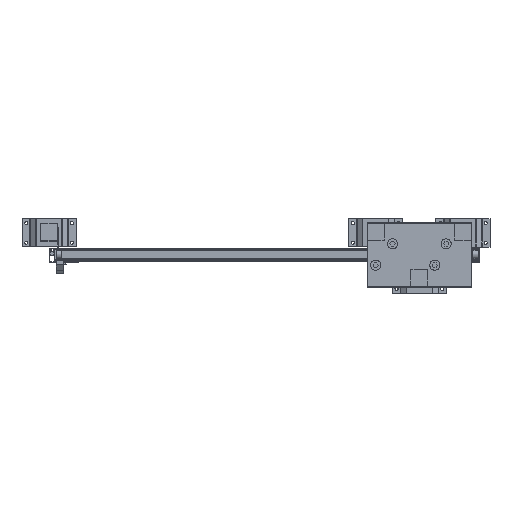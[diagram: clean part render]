
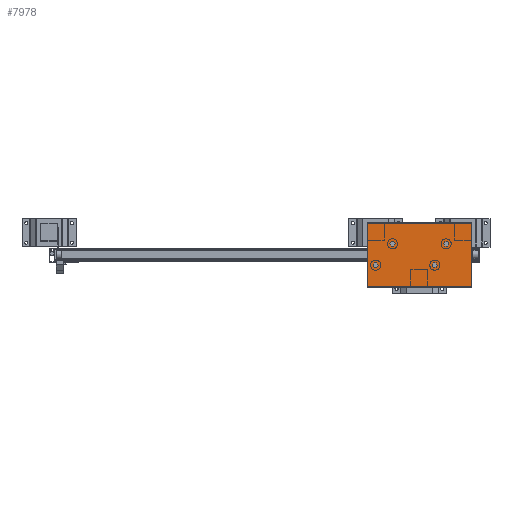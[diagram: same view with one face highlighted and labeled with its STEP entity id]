
A CAD part, top view. The second image highlights one B-rep face of the part: STEP entity #7978.
In plain terms, the highlighted planar face has unit normal (0, 0, 1).
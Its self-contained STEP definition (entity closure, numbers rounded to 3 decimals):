
#1031=FACE_OUTER_BOUND('',#1446,.T.);
#1446=EDGE_LOOP('',(#6315,#6316,#6317,#6318));
#2204=LINE('',#12313,#3223);
#2205=LINE('',#12315,#3224);
#2206=LINE('',#12317,#3225);
#2207=LINE('',#12318,#3226);
#3223=VECTOR('',#9797,1.);
#3224=VECTOR('',#9798,1.);
#3225=VECTOR('',#9799,1.);
#3226=VECTOR('',#9800,1.);
#4015=VERTEX_POINT('',#12311);
#4016=VERTEX_POINT('',#12312);
#4017=VERTEX_POINT('',#12314);
#4018=VERTEX_POINT('',#12316);
#4874=EDGE_CURVE('',#4015,#4016,#2204,.T.);
#4875=EDGE_CURVE('',#4017,#4015,#2205,.T.);
#4876=EDGE_CURVE('',#4017,#4018,#2206,.T.);
#4877=EDGE_CURVE('',#4016,#4018,#2207,.T.);
#6315=ORIENTED_EDGE('',*,*,#4874,.F.);
#6316=ORIENTED_EDGE('',*,*,#4875,.F.);
#6317=ORIENTED_EDGE('',*,*,#4876,.T.);
#6318=ORIENTED_EDGE('',*,*,#4877,.F.);
#7601=PLANE('',#8487);
#7978=ADVANCED_FACE('',(#1031),#7601,.T.);
#8487=AXIS2_PLACEMENT_3D('',#12310,#9795,#9796);
#9795=DIRECTION('center_axis',(0.,0.,1.));
#9796=DIRECTION('ref_axis',(1.,0.,0.));
#9797=DIRECTION('',(0.,1.,0.));
#9798=DIRECTION('',(-1.,0.,0.));
#9799=DIRECTION('',(0.,1.,0.));
#9800=DIRECTION('',(1.,0.,0.));
#12310=CARTESIAN_POINT('Origin',(3134.404,1784.689,2533.));
#12311=CARTESIAN_POINT('',(3134.404,1784.689,2533.));
#12312=CARTESIAN_POINT('',(3134.404,2014.689,2533.));
#12313=CARTESIAN_POINT('',(3134.404,1784.689,2533.));
#12314=CARTESIAN_POINT('',(3504.404,1784.689,2533.));
#12315=CARTESIAN_POINT('',(3504.404,1784.689,2533.));
#12316=CARTESIAN_POINT('',(3504.404,2014.689,2533.));
#12317=CARTESIAN_POINT('',(3504.404,1784.689,2533.));
#12318=CARTESIAN_POINT('',(3319.404,2014.689,2533.));
